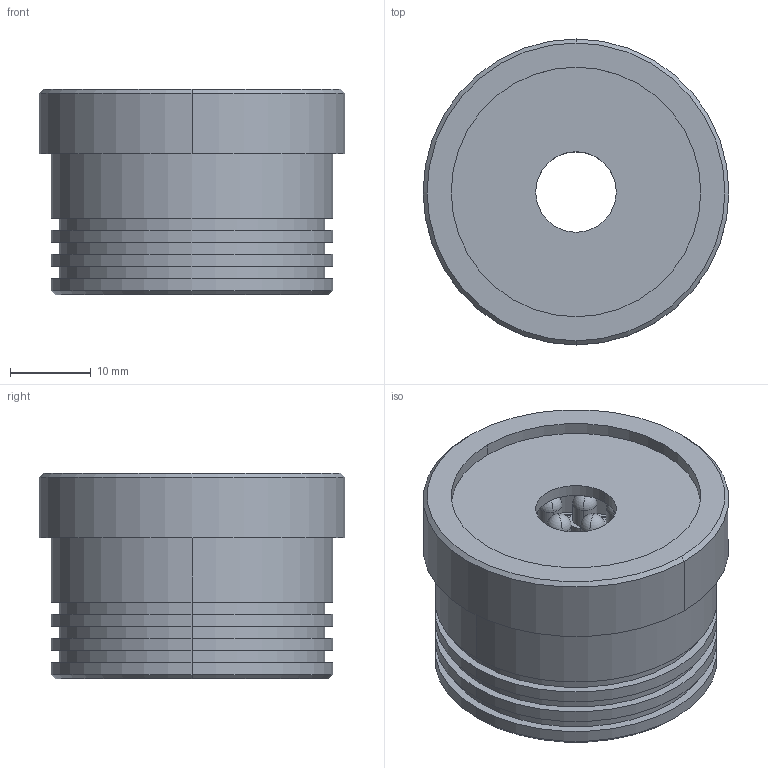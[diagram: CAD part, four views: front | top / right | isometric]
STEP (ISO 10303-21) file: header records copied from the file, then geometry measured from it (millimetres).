
FILE_DESCRIPTION((''),'2;1');
FILE_NAME('DRL3500_ASM','2020-03-27T',('ASUS'),(''),'PRO/ENGINEER BY PARAMETRIC TECHNOLOGY CORPORATION, 2008380','PRO/ENGINEER BY PARAMETRIC TECHNOLOGY CORPORATION, 2008380','');
FILE_SCHEMA(('CONFIG_CONTROL_DESIGN'));
Length unit declared in the file: millimetre
Products named in the file (3): DRL3500; LED; DRL3500_ASM
Assembly tree (31 placements, depth 2):
  DRL3500_ASM
    DRL3500
    LED  x30
Bounding box: 38 x 38 x 25.5 mm (x, y, z)
Volume: 15972 mm3; surface area: 11893.8 mm2
Topology: 31 solids, 35 shells, 327 faces, 672 edges, 390 vertices
Faces by surface type: cylinder 168, plane 79, sphere 60, cone 20
Entity records: 2911 total; most frequent: DIRECTION 586, CARTESIAN_POINT 458, ORIENTED_EDGE 380, AXIS2_PLACEMENT_3D 257, EDGE_CURVE 198, VERTEX_POINT 129, CIRCLE 126, EDGE_LOOP 119
